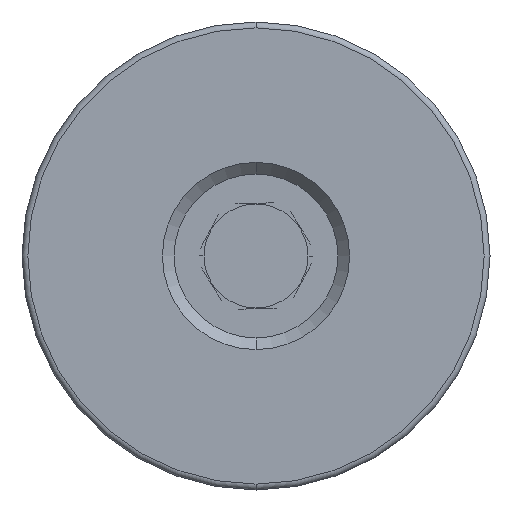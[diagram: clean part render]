
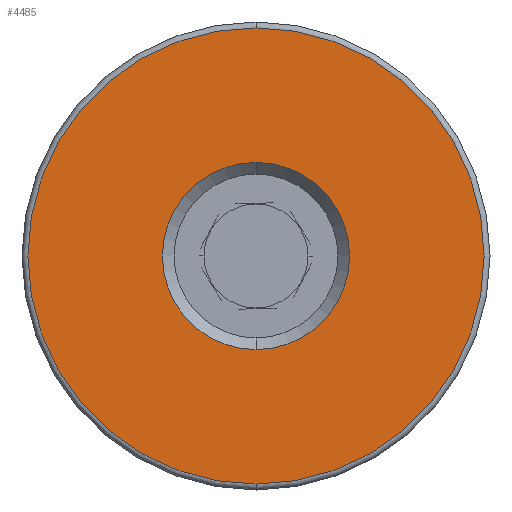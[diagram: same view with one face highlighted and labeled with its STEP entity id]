
A CAD part, front view. The second image highlights one B-rep face of the part: STEP entity #4485.
In plain terms, the highlighted planar face has unit normal (0, -1, 0).
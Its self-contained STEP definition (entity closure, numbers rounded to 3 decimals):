
#79 = AXIS2_PLACEMENT_3D ( 'NONE', #6384, #11752, #12486 ) ;
#272 = FACE_OUTER_BOUND ( 'NONE', #13624, .T. ) ;
#363 = EDGE_CURVE ( 'NONE', #11253, #5221, #11916, .T. ) ;
#1271 = EDGE_CURVE ( 'NONE', #8630, #7711, #3489, .T. ) ;
#1323 = CARTESIAN_POINT ( 'NONE',  ( 0., -30., 0. ) ) ;
#1521 = CARTESIAN_POINT ( 'NONE',  ( 0., -30., 39. ) ) ;
#1694 = ORIENTED_EDGE ( 'NONE', *, *, #363, .T. ) ;
#2213 = DIRECTION ( 'NONE',  ( 0., 1., 0. ) ) ;
#3489 = CIRCLE ( 'NONE', #7991, 39. ) ;
#4044 = CARTESIAN_POINT ( 'NONE',  ( 0., -30., 0. ) ) ;
#4058 = CIRCLE ( 'NONE', #8006, 39. ) ;
#4427 = CARTESIAN_POINT ( 'NONE',  ( 0., -30., -16. ) ) ;
#4485 = ADVANCED_FACE ( 'NONE', ( #9186, #272 ), #11195, .F. ) ;
#5183 = DIRECTION ( 'NONE',  ( 0., 0., 1. ) ) ;
#5221 = VERTEX_POINT ( 'NONE', #12081 ) ;
#5262 = EDGE_CURVE ( 'NONE', #5221, #11253, #6172, .T. ) ;
#5911 = CARTESIAN_POINT ( 'NONE',  ( 0., -30., -39. ) ) ;
#6172 = CIRCLE ( 'NONE', #79, 16. ) ;
#6286 = DIRECTION ( 'NONE',  ( 0., 0., 1. ) ) ;
#6384 = CARTESIAN_POINT ( 'NONE',  ( 0., -30., 0. ) ) ;
#6610 = DIRECTION ( 'NONE',  ( 0., 1., 0. ) ) ;
#7231 = DIRECTION ( 'NONE',  ( 0., -1., 0. ) ) ;
#7401 = AXIS2_PLACEMENT_3D ( 'NONE', #10779, #2213, #9292 ) ;
#7711 = VERTEX_POINT ( 'NONE', #5911 ) ;
#7991 = AXIS2_PLACEMENT_3D ( 'NONE', #4044, #7231, #8674 ) ;
#8006 = AXIS2_PLACEMENT_3D ( 'NONE', #1323, #11654, #6286 ) ;
#8054 = CARTESIAN_POINT ( 'NONE',  ( 0., -30., 0. ) ) ;
#8630 = VERTEX_POINT ( 'NONE', #1521 ) ;
#8674 = DIRECTION ( 'NONE',  ( 0., 0., 1. ) ) ;
#9186 = FACE_BOUND ( 'NONE', #10384, .T. ) ;
#9292 = DIRECTION ( 'NONE',  ( 0., 0., 1. ) ) ;
#9585 = AXIS2_PLACEMENT_3D ( 'NONE', #8054, #6610, #5183 ) ;
#10384 = EDGE_LOOP ( 'NONE', ( #1694, #12207 ) ) ;
#10583 = ORIENTED_EDGE ( 'NONE', *, *, #13459, .T. ) ;
#10779 = CARTESIAN_POINT ( 'NONE',  ( 0., -30., 0. ) ) ;
#11195 = PLANE ( 'NONE',  #7401 ) ;
#11253 = VERTEX_POINT ( 'NONE', #4427 ) ;
#11654 = DIRECTION ( 'NONE',  ( 0., -1., 0. ) ) ;
#11752 = DIRECTION ( 'NONE',  ( 0., 1., 0. ) ) ;
#11916 = CIRCLE ( 'NONE', #9585, 16. ) ;
#12081 = CARTESIAN_POINT ( 'NONE',  ( 0., -30., 16. ) ) ;
#12207 = ORIENTED_EDGE ( 'NONE', *, *, #5262, .T. ) ;
#12486 = DIRECTION ( 'NONE',  ( 0., 0., 1. ) ) ;
#13459 = EDGE_CURVE ( 'NONE', #7711, #8630, #4058, .T. ) ;
#13624 = EDGE_LOOP ( 'NONE', ( #13902, #10583 ) ) ;
#13902 = ORIENTED_EDGE ( 'NONE', *, *, #1271, .T. ) ;
